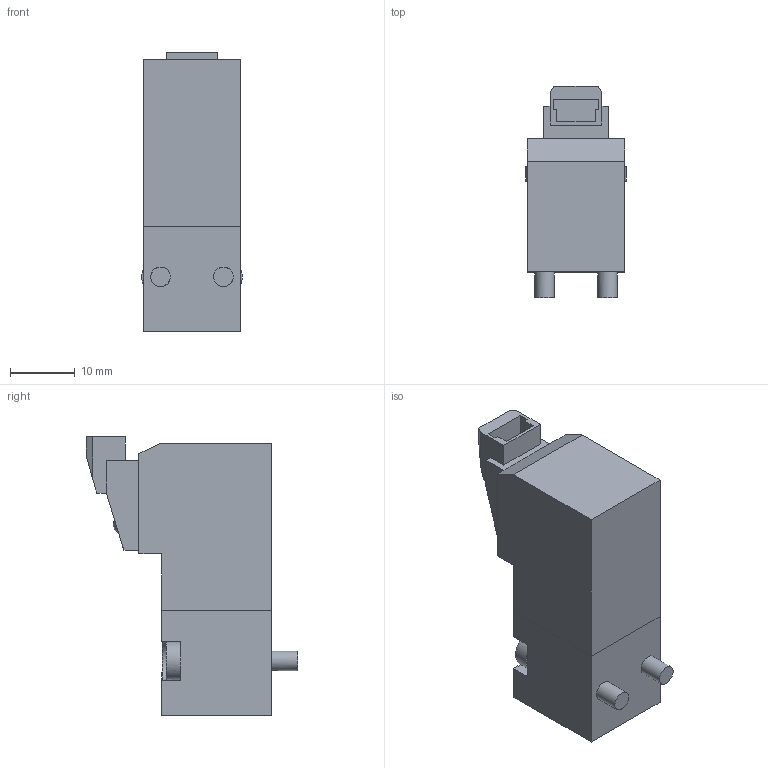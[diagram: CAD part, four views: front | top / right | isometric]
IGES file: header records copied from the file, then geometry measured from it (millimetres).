
Global section: file name: N3##_7L#-8; native system: Autodesk Inventor 2014; preprocessor: unknown; author: A. Manieri; organization: Pneumax S.p.A.; date: 20160913.142022; units: millimetre
Bounding box: 15.5 x 32.6 x 42.97 mm (x, y, z)
Volume: 12258.5 mm3; surface area: 4115.4 mm2
Topology: 1 solids, 1 shells, 98 faces, 252 edges, 165 vertices
Faces by surface type: bspline 98
